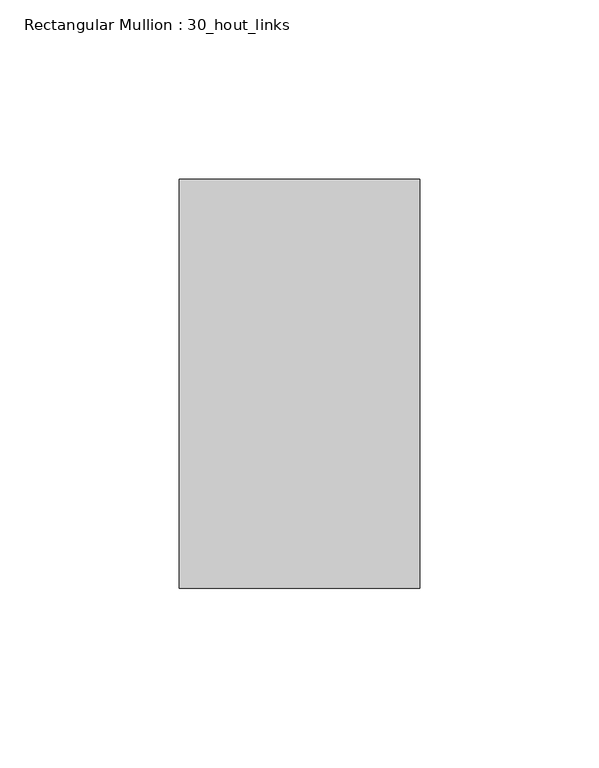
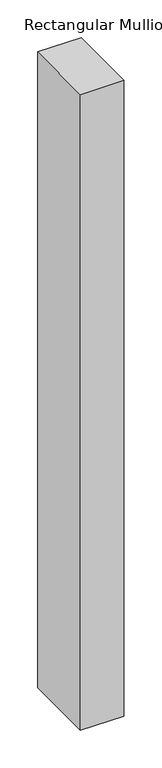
"""IFC4 building model written with IfcOpenShell, lengths in millimetres: member geometry, Rectangular Mullion : 30_hout_links."""

from ifc_helpers import new_model, si_unit, frame, origin, place, context, project, spatial, polyline, outline, extrude, source, transform, mapped, element, save


def rectangular_mullion_30_hout_links_a64d900f(model_context):
    return source(origin(), model_context, "Body", "SweptSolid", [
        extrude(outline(polyline([(0.0, 57.0), (0.0, -57.0), (-67.0, -57.0), (-67.0, 57.0), (0.0, 57.0)])), frame((0.0, 0.0, -1033.3333333), z_axis=(0.0, 0.0, 1.0), x_axis=(1.0, 0.0, 0.0)), (0.0, 0.0, 1.0), 1033.3333333),
    ])


if __name__ == "__main__":
    model = new_model("IFC4")
    model_context = context("Model", 3, world=origin())
    ifc_project = project(units=[si_unit("LENGTHUNIT", "METRE", prefix="MILLI")], contexts=[model_context])
    site = spatial("IfcSite", under=ifc_project)
    building = spatial("IfcBuilding", under=site)
    placement = place(None, origin())
    rectangular_mullion_30_hout_links_shape = rectangular_mullion_30_hout_links_a64d900f(model_context)
    element("IfcMember", 1, ObjectType="Rectangular Mullion : 30_hout_links", at=placement, inside=building, context=model_context, shape_type="MappedRepresentation", body=[
        mapped(rectangular_mullion_30_hout_links_shape, transform((0.0, 0.0, 0.0), x_axis=(1.0, 0.0, 0.0), y_axis=(0.0, 1.0, 0.0), z_axis=(0.0, 0.0, 1.0))),
    ])
    save(model, "model.ifc")
